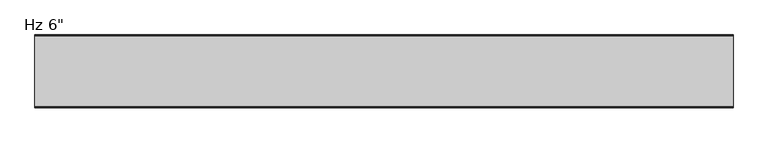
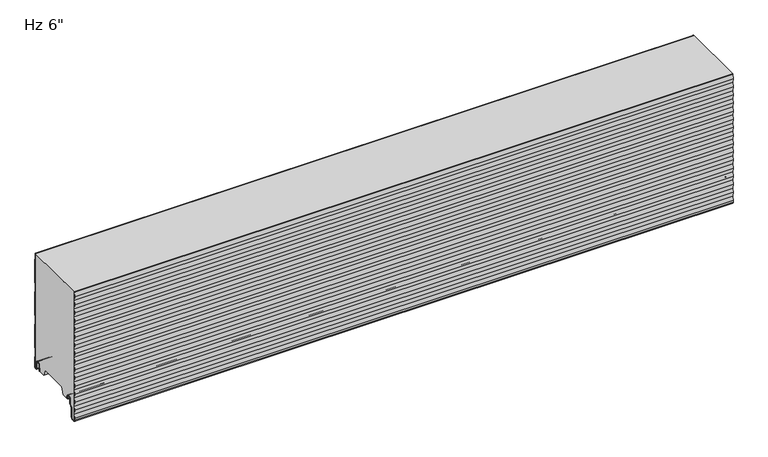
"""IFC4 building model written with IfcOpenShell, lengths in millimetres: plate geometry."""

from ifc_helpers import new_model, si_unit, point, frame, frame_2d, origin, place, context, project, spatial, polyline, circle_curve, trimmed, segment, composite_curve, outline, extrude, source, transform, mapped, element, save
from ifc_brep_helpers import plane_surface, cylinder_surface, revolved_surface, advanced_brep


def plate_f641b36d(model_context):
    return source(origin(), model_context, "Body", "SolidModel", [
        extrude(outline(composite_curve([segment(trimmed(circle_curve(frame_2d((-2.3985037, -0.4487243)), 2.3999705), [point((-3.12e-05, -0.3639402))], [point((-2.3985037, -2.8486949))], False, "CARTESIAN"), True, "CONTINUOUS"), segment(polyline([(-2.3985037, -2.8486949), (-3.9516205, -2.8486949)]), True, "CONTINUOUS"), segment(trimmed(circle_curve(frame_2d((-3.9516205, 0.3613604)), 3.2100553), [point((-3.9516205, -2.8486949))], [point((-7.1616758, 0.3613604))], False, "CARTESIAN"), True, "CONTINUOUS"), segment(polyline([(-7.1616758, 0.3613604), (-7.1616758, 13.8905885)]), True, "CONTINUOUS"), segment(trimmed(circle_curve(frame_2d((-9.8816619, 13.8905885)), 2.7199861), [point((-7.1616758, 13.8905885))], [point((-9.8816619, 16.6105746))], True, "CARTESIAN"), True, "CONTINUOUS"), segment(polyline([(-9.8816619, 16.6105746), (-13.5282598, 16.6105746)]), True, "CONTINUOUS"), segment(trimmed(circle_curve(frame_2d((-13.5282598, 13.8905782)), 2.7199964), [point((-13.5282598, 16.6105746))], [point((-16.2482561, 13.8905782))], True, "CARTESIAN"), True, "CONTINUOUS"), segment(polyline([(-16.2482561, 13.8905782), (-16.2482561, 1.189897)]), True, "CONTINUOUS"), segment(trimmed(circle_curve(frame_2d((-17.7722572, 1.189897)), 1.524001), [point((-16.2482561, 1.189897))], [point((-19.2731052, 1.454537))], False, "CARTESIAN"), True, "CONTINUOUS"), segment(polyline([(-19.2731052, 1.454537), (-18.1704393, 7.7080661), (-17.2482561, 7.5454603), (-17.2482561, 13.8905782)]), True, "CONTINUOUS"), segment(trimmed(circle_curve(frame_2d((-13.5282598, 13.8905782)), 3.7199964), [point((-17.2482561, 13.8905782))], [point((-13.5282598, 17.6105746))], False, "CARTESIAN"), True, "CONTINUOUS"), segment(polyline([(-13.5282598, 17.6105746), (-9.8816619, 17.6105746)]), True, "CONTINUOUS"), segment(trimmed(circle_curve(frame_2d((-9.8816619, 13.8905885)), 3.7199861), [point((-9.8816619, 17.6105746))], [point((-6.1616758, 13.8905885))], False, "CARTESIAN"), True, "CONTINUOUS"), segment(polyline([(-6.1616758, 13.8905885), (-6.1616758, 0.3613604)]), True, "CONTINUOUS"), segment(trimmed(circle_curve(frame_2d((-3.9516205, 0.3613604)), 2.2100553), [point((-6.1616758, 0.3613604))], [point((-3.9516205, -1.8486949))], True, "CARTESIAN"), True, "CONTINUOUS"), segment(polyline([(-3.9516205, -1.8486949), (-2.3985037, -1.8486949)]), True, "CONTINUOUS"), segment(trimmed(circle_curve(frame_2d((-2.3985037, -0.4487243)), 1.3999705), [point((-2.3985037, -1.8486949))], [point((-1.0000312, -0.3839769))], True, "CARTESIAN"), True, "CONTINUOUS"), segment(polyline([(-1.0000312, -0.3839769), (-1.0000312, 22.2866086), (-2.2002516, 23.486829), (-2.2002516, 43.1222888), (-1.0000209, 44.3225195), (-1.0000209, 98.4864459), (-2.2002516, 99.6866766), (-2.2002516, 119.3221364), (-1.0000209, 120.5223671), (-1.0000209, 174.6698551), (-2.2002516, 175.8700858), (-2.2002516, 195.5055456), (-1.0000209, 196.7057763), (-1.0000209, 250.8532643), (-2.2002516, 252.0534951), (-2.2002516, 266.4), (-1.2002516, 266.4), (-1.2002516, 252.4677086), (-2.09e-05, 251.2674779), (-2.09e-05, 196.2915628), (-1.2002516, 195.091332), (-1.2002516, 176.2842994), (-2.09e-05, 175.0840687), (-2.09e-05, 120.1081535), (-1.2002516, 118.9079228), (-1.2002516, 100.1008902), (-2.09e-05, 98.9006594), (-2.09e-05, 43.9083059), (-1.2002516, 42.7080752), (-1.2002516, 23.9010426), (-3.12e-05, 22.7008222), (-3.12e-05, -0.3639402)]), True, "CONTINUOUS")], self_intersect=False)), frame((-730.0, 0.0, 0.0), z_axis=(1.0, 0.0, 0.0), x_axis=(0.0, 1.0, 0.0)), (0.0, 0.0, 1.0), 1460.0),
        extrude(outline(composite_curve([segment(trimmed(circle_curve(frame_2d((-124.0783207, 0.8654988)), 1.2), [point((-122.8783217, 0.8670134))], [point((-125.2768053, 0.8052116))], False, "CARTESIAN"), True, "CONTINUOUS"), segment(polyline([(-125.2768053, 0.8052116), (-125.2768053, 7.3245305)]), True, "CONTINUOUS"), segment(trimmed(circle_curve(frame_2d((-127.6268053, 7.3245305)), 2.3499999), [point((-125.2768053, 7.3245305))], [point((-127.6268053, 9.6745305))], True, "CARTESIAN"), True, "CONTINUOUS"), segment(polyline([(-127.6268053, 9.6745305), (-132.0268051, 9.6745305)]), True, "CONTINUOUS"), segment(trimmed(circle_curve(frame_2d((-132.0268051, 7.3245305)), 2.3499999), [point((-132.0268051, 9.6745305))], [point((-134.376805, 7.3245305))], True, "CARTESIAN"), True, "CONTINUOUS"), segment(polyline([(-134.376805, 7.3245305), (-134.376805, -4.4863817)]), True, "CONTINUOUS"), segment(trimmed(circle_curve(frame_2d((-137.076805, -4.4863817)), 2.7), [point((-134.376805, -4.4863817))], [point((-135.1676167, -6.39557))], False, "CARTESIAN"), True, "CONTINUOUS"), segment(polyline([(-135.1676167, -6.39557), (-139.9081756, -11.1361289)]), True, "CONTINUOUS"), segment(trimmed(circle_curve(frame_2d((-138.7768048, -12.2674998)), 1.6), [point((-139.9081756, -11.1361289))], [point((-140.3768048, -12.2674998))], True, "CARTESIAN"), True, "CONTINUOUS"), segment(polyline([(-140.3768048, -12.2674998), (-140.3768048, -33.274257)]), True, "CONTINUOUS"), segment(trimmed(circle_curve(frame_2d((-144.0768048, -33.274257)), 3.7), [point((-140.3768048, -33.274257))], [point((-143.7540376, -36.960152))], False, "CARTESIAN"), True, "CONTINUOUS"), segment(polyline([(-143.7540376, -36.960152), (-148.5010262, -37.3758371)]), True, "CONTINUOUS"), segment(trimmed(circle_curve(frame_2d((-148.8116373, -33.8287598)), 3.5606512), [point((-148.5010262, -37.3758371))], [point((-152.3722885, -33.8287598))], False, "CARTESIAN"), True, "CONTINUOUS"), segment(polyline([(-152.3722885, -33.8287598), (-152.3722885, -29.1236881), (-151.3412058, -19.8481845), (-152.4000209, -10.3232036), (-151.3412058, -0.7982226), (-152.4000209, 8.7267583), (-151.3412058, 18.2517393), (-152.4000209, 27.7767202), (-151.3412058, 37.3017012), (-152.4000209, 46.8266821), (-151.3412058, 56.3516631), (-152.4000209, 65.876644), (-151.3412058, 75.401625), (-152.4000209, 84.9266059), (-151.3412058, 94.4515869), (-152.4000209, 103.9765678), (-151.3412058, 113.5015488), (-152.4000209, 123.0265297), (-151.3412058, 132.5515107), (-152.4000209, 142.0764916), (-151.3412058, 151.6014726), (-152.4000209, 161.1264535), (-151.3412058, 170.6514345), (-152.4000209, 180.1764154), (-151.3412058, 189.7013964), (-152.4000209, 199.2263773), (-151.3412058, 208.7513583), (-152.4000209, 218.2763392), (-151.3412058, 227.8013202), (-152.4000209, 237.3263011), (-151.3412058, 246.8512821), (-152.4000209, 256.376263), (-151.3412058, 265.901244), (-151.3966485, 266.4), (-150.3904889, 266.4), (-150.3350463, 265.901244), (-151.3938614, 256.376263), (-150.3350463, 246.8512821), (-151.3938614, 237.3263011), (-150.3350463, 227.8013202), (-151.3938614, 218.2763392), (-150.3350463, 208.7513583), (-151.3938614, 199.2263773), (-150.3350463, 189.7013964), (-151.3938614, 180.1764154), (-150.3350463, 170.6514345), (-151.3938614, 161.1264535), (-150.3350463, 151.6014726), (-151.3938614, 142.0764916), (-150.3350463, 132.5515107), (-151.3938614, 123.0265297), (-150.3350463, 113.5015488), (-151.3938614, 103.9765678), (-150.3350463, 94.4515869), (-151.3938614, 84.9266059), (-150.3350463, 75.401625), (-151.3938614, 65.876644), (-150.3350463, 56.3516631), (-151.3938614, 46.8266821), (-150.3350463, 37.3017012), (-151.3938614, 27.7767202), (-150.3350463, 18.2517393), (-151.3938614, 8.7267583), (-150.3350463, -0.7982226), (-151.3938614, -10.3232036), (-150.3350463, -19.8481845), (-151.3722885, -29.1790984), (-151.3722885, -33.8287598)]), True, "CONTINUOUS"), segment(trimmed(circle_curve(frame_2d((-148.8116373, -33.8287598)), 2.5606512), [point((-151.3722885, -33.8287598))], [point((-148.5882606, -36.3796493))], True, "CARTESIAN"), True, "CONTINUOUS"), segment(polyline([(-148.5882606, -36.3796493), (-143.841272, -35.9639641)]), True, "CONTINUOUS"), segment(trimmed(circle_curve(frame_2d((-144.0768048, -33.274257)), 2.7), [point((-143.841272, -35.9639641))], [point((-141.3768048, -33.274257))], True, "CARTESIAN"), True, "CONTINUOUS"), segment(polyline([(-141.3768048, -33.274257), (-141.3768048, -12.2674998)]), True, "CONTINUOUS"), segment(trimmed(circle_curve(frame_2d((-138.7768048, -12.2674998)), 2.6), [point((-141.3768048, -12.2674998))], [point((-140.6152824, -10.4290221))], False, "CARTESIAN"), True, "CONTINUOUS"), segment(polyline([(-140.6152824, -10.4290221), (-135.8747235, -5.6884632)]), True, "CONTINUOUS"), segment(trimmed(circle_curve(frame_2d((-137.076805, -4.4863817)), 1.7), [point((-135.8747235, -5.6884632))], [point((-135.376805, -4.4863817))], True, "CARTESIAN"), True, "CONTINUOUS"), segment(polyline([(-135.376805, -4.4863817), (-135.376805, 7.3245305)]), True, "CONTINUOUS"), segment(trimmed(circle_curve(frame_2d((-132.0268051, 7.3245305)), 3.3499999), [point((-135.376805, 7.3245305))], [point((-132.0268051, 10.6745305))], False, "CARTESIAN"), True, "CONTINUOUS"), segment(polyline([(-132.0268051, 10.6745305), (-127.6268053, 10.6745305)]), True, "CONTINUOUS"), segment(trimmed(circle_curve(frame_2d((-127.6268053, 7.3245305)), 3.3499999), [point((-127.6268053, 10.6745305))], [point((-124.2768053, 7.3245305))], False, "CARTESIAN"), True, "CONTINUOUS"), segment(polyline([(-124.2768053, 7.3245305), (-124.2768053, 4.6254142), (-122.8783217, 4.6254142), (-122.8783217, 0.8670134)]), True, "CONTINUOUS")], self_intersect=False)), frame((-730.0, 0.0, 0.0), z_axis=(1.0, 0.0, 0.0), x_axis=(0.0, 1.0, 0.0)), (0.0, 0.0, 1.0), 1460.0),
        advanced_brep(
        [(-730.0, -124.2829649, 7.3245305), (-730.0, -127.6329648, 10.6745305), (-730.0, -132.0329646, 10.6745305), (-730.0, -135.3829645, 7.3245305), (-730.0, -135.3829645, -4.4863817), (-730.0, -135.880883, -5.6884632), (-730.0, -140.6214419, -10.4290221), (-730.0, -141.3829643, -12.2674998), (-730.0, -141.3829643, -33.274257), (-730.0, -143.8474315, -35.9639641), (-730.0, -148.5944201, -36.3796493), (-730.0, -151.378448, -33.8287598), (-730.0, -151.378448, -29.1787401), (-730.0, -150.3412058, -19.8478263), (-730.0, -151.4000209, -10.3228453), (-730.0, -150.3412058, -0.7978644), (-730.0, -151.4000209, 8.7271166), (-730.0, -150.3412058, 18.2520975), (-730.0, -151.4000209, 27.7770785), (-730.0, -150.3412058, 37.3020594), (-730.0, -151.4000209, 46.8270404), (-730.0, -150.3412058, 56.3520213), (-730.0, -151.4000209, 65.8770023), (-730.0, -150.3412058, 75.4019832), (-730.0, -151.4000209, 84.9269642), (-730.0, -150.3412058, 94.4519451), (-730.0, -151.4000209, 103.9769261), (-730.0, -150.3412058, 113.501907), (-730.0, -151.4000209, 123.026888), (-730.0, -150.3412058, 132.5518689), (-730.0, -151.4000209, 142.0768499), (-730.0, -150.3412058, 151.6018308), (-730.0, -151.4000209, 161.1268118), (-730.0, -150.3412058, 170.6517927), (-730.0, -151.4000209, 180.1767737), (-730.0, -150.3412058, 189.7017546), (-730.0, -151.4000209, 199.2267356), (-730.0, -150.3412058, 208.7517165), (-730.0, -151.4000209, 218.2766975), (-730.0, -150.3412058, 227.8016784), (-730.0, -151.4000209, 237.3266594), (-730.0, -150.3412058, 246.8516403), (-730.0, -151.4000209, 256.3766213), (-730.0, -150.3412058, 265.9016022), (-730.0, -150.3966086, 266.4), (-730.0, -2.2002516, 266.4), (-730.0, -2.2002516, 252.0534951), (-730.0, -1.0000209, 250.8532643), (-730.0, -1.0000209, 196.7057763), (-730.0, -2.2002516, 195.5055456), (-730.0, -2.2002516, 175.8700858), (-730.0, -1.0000209, 174.6698551), (-730.0, -1.0000209, 120.5223671), (-730.0, -2.2002516, 119.3221364), (-730.0, -2.2002516, 99.6866766), (-730.0, -1.0000209, 98.4864459), (-730.0, -1.0000209, 44.3225195), (-730.0, -2.2002516, 43.1222888), (-730.0, -2.2002516, 23.486829), (-730.0, -1.0000312, 22.2866086), (-730.0, -1.0000312, -0.3839769), (-730.0, -2.3985037, -1.8486949), (-730.0, -3.9516205, -1.8486949), (-730.0, -6.1616758, 0.3613604), (-730.0, -6.1616758, 13.8905885), (-730.0, -9.8816619, 17.6105746), (-730.0, -13.5282598, 17.6105746), (-730.0, -17.2482561, 13.8905782), (-730.0, -17.2482561, 7.5454603), (-730.0, -18.1704393, 7.7080661), (-730.0, -19.2731052, 1.454537), (-730.0, -18.724478, 0.0), (-730.0, -33.5050787, 0.0), (-730.0, -39.1301227, 14.9979533), (-730.0, -102.5686274, 14.9979533), (-730.0, -108.1712822, 0.0), (-730.0, -123.2532693, 0.0), (-730.0, -122.8844813, 0.8670134), (-730.0, -122.8844813, 4.6254142), (-730.0, -124.2829649, 4.6254142), (730.0, -124.2829649, 7.3245305), (730.0, -124.2829649, 4.6254142), (730.0, -122.8844813, 4.6254142), (730.0, -122.8844813, 0.8670134), (730.0, -123.2532693, 0.0), (730.0, -108.1712822, 0.0), (730.0, -102.5470546, 14.9979533), (730.0, -39.1301227, 14.9979533), (730.0, -33.5050787, 0.0), (730.0, -18.724478, 0.0), (730.0, -19.2731052, 1.454537), (730.0, -18.1704393, 7.7080661), (730.0, -17.2482561, 7.5454603), (730.0, -17.2482561, 13.8905782), (730.0, -13.5282598, 17.6105746), (730.0, -9.8816619, 17.6105746), (730.0, -6.1616758, 13.8905885), (730.0, -6.1616758, 0.3613604), (730.0, -3.9516205, -1.8486949), (730.0, -2.3985037, -1.8486949), (730.0, -1.0000312, -0.3839769), (730.0, -1.0000312, 22.2866086), (730.0, -2.2002516, 23.486829), (730.0, -2.2002516, 43.1222888), (730.0, -1.0000209, 44.3225195), (730.0, -1.0000209, 98.4864459), (730.0, -2.2002516, 99.6866766), (730.0, -2.2002516, 119.3221364), (730.0, -1.0000209, 120.5223671), (730.0, -1.0000209, 174.6698551), (730.0, -2.2002516, 175.8700858), (730.0, -2.2002516, 195.5055456), (730.0, -1.0000209, 196.7057763), (730.0, -1.0000209, 250.8532643), (730.0, -2.2002516, 252.0534951), (730.0, -2.2002516, 266.4), (730.0, -150.3966086, 266.4), (730.0, -150.3412058, 265.9016022), (730.0, -151.4000209, 256.3766213), (730.0, -150.3412058, 246.8516403), (730.0, -151.4000209, 237.3266594), (730.0, -150.3412058, 227.8016784), (730.0, -151.4000209, 218.2766975), (730.0, -150.3412058, 208.7517165), (730.0, -151.4000209, 199.2267356), (730.0, -150.3412058, 189.7017546), (730.0, -151.4000209, 180.1767737), (730.0, -150.3412058, 170.6517927), (730.0, -151.4000209, 161.1268118), (730.0, -150.3412058, 151.6018308), (730.0, -151.4000209, 142.0768499), (730.0, -150.3412058, 132.5518689), (730.0, -151.4000209, 123.026888), (730.0, -150.3412058, 113.501907), (730.0, -151.4000209, 103.9769261), (730.0, -150.3412058, 94.4519451), (730.0, -151.4000209, 84.9269642), (730.0, -150.3412058, 75.4019832), (730.0, -151.4000209, 65.8770023), (730.0, -150.3412058, 56.3520213), (730.0, -151.4000209, 46.8270404), (730.0, -150.3412058, 37.3020594), (730.0, -151.4000209, 27.7770785), (730.0, -150.3412058, 18.2520975), (730.0, -151.4000209, 8.7271166), (730.0, -150.3412058, -0.7978644), (730.0, -151.4000209, -10.3228453), (730.0, -150.3412058, -19.8478263), (730.0, -151.378448, -29.1787401), (730.0, -151.378448, -33.8287598), (730.0, -148.5944201, -36.3796493), (730.0, -143.8474315, -35.9639641), (730.0, -141.3829643, -33.274257), (730.0, -141.3829643, -12.2674998), (730.0, -140.6214419, -10.4290221), (730.0, -135.880883, -5.6884632), (730.0, -135.3829645, -4.4863817), (730.0, -135.3829645, 7.3245305), (730.0, -132.0329646, 10.6745305), (730.0, -127.6329648, 10.6745305)],
        [
            (0, 1, circle_curve(frame((-730.0, -127.6329648, 7.3245305), z_axis=(1.0, 0.0, 0.0), x_axis=(0.0, 0.0, -1.0)), 3.3499999)),
            (1, 2),
            (2, 3, circle_curve(frame((-730.0, -132.0329646, 7.3245305), z_axis=(1.0, 0.0, 0.0), x_axis=(0.0, 0.0, -1.0)), 3.3499999)),
            (3, 4),
            (4, 5, circle_curve(frame((-730.0, -137.0829645, -4.4863817), z_axis=(-1.0, 0.0, 0.0), x_axis=(0.0, 0.0, -1.0)), 1.7)),
            (5, 6),
            (6, 7, circle_curve(frame((-730.0, -138.7829643, -12.2674998), z_axis=(1.0, 0.0, 0.0), x_axis=(0.0, 0.0, -1.0)), 2.6)),
            (7, 8),
            (8, 9, circle_curve(frame((-730.0, -144.0829643, -33.274257), z_axis=(-1.0, 0.0, 0.0), x_axis=(0.0, 0.0, -1.0)), 2.7)),
            (9, 10),
            (10, 11, circle_curve(frame((-730.0, -148.8177968, -33.8287598), z_axis=(-1.0, 0.0, 0.0), x_axis=(0.0, 0.0, -1.0)), 2.5606512)),
            (11, 12),
            (12, 13),
            (13, 14),
            (14, 15),
            (15, 16),
            (16, 17),
            (17, 18),
            (18, 19),
            (19, 20),
            (20, 21),
            (21, 22),
            (22, 23),
            (23, 24),
            (24, 25),
            (25, 26),
            (26, 27),
            (27, 28),
            (28, 29),
            (29, 30),
            (30, 31),
            (31, 32),
            (32, 33),
            (33, 34),
            (34, 35),
            (35, 36),
            (36, 37),
            (37, 38),
            (38, 39),
            (39, 40),
            (40, 41),
            (41, 42),
            (42, 43),
            (43, 44),
            (44, 45),
            (45, 46),
            (46, 47),
            (47, 48),
            (48, 49),
            (49, 50),
            (50, 51),
            (51, 52),
            (52, 53),
            (53, 54),
            (54, 55),
            (55, 56),
            (56, 57),
            (57, 58),
            (58, 59),
            (59, 60),
            (60, 61, circle_curve(frame((-730.0, -2.3985037, -0.4487243), z_axis=(-1.0, 0.0, 0.0), x_axis=(0.0, 0.0, -1.0)), 1.3999705)),
            (61, 62),
            (62, 63, circle_curve(frame((-730.0, -3.9516205, 0.3613604), z_axis=(-1.0, 0.0, 0.0), x_axis=(0.0, 0.0, -1.0)), 2.2100553)),
            (63, 64),
            (64, 65, circle_curve(frame((-730.0, -9.8816619, 13.8905885), z_axis=(1.0, 0.0, 0.0), x_axis=(0.0, 0.0, -1.0)), 3.7199861)),
            (65, 66),
            (66, 67, circle_curve(frame((-730.0, -13.5282598, 13.8905782), z_axis=(1.0, 0.0, 0.0), x_axis=(0.0, 0.0, -1.0)), 3.7199964)),
            (67, 68),
            (68, 69),
            (69, 70),
            (70, 71, circle_curve(frame((-730.0, -17.7722572, 1.189897), z_axis=(1.0, 0.0, 0.0), x_axis=(0.0, 0.0, -1.0)), 1.524001)),
            (71, 72),
            (72, 73),
            (73, 74),
            (74, 75),
            (75, 76),
            (76, 77, circle_curve(frame((-730.0, -124.0844803, 0.8654988), z_axis=(1.0, 0.0, 0.0), x_axis=(0.0, 0.0, -1.0)), 1.2)),
            (77, 78),
            (78, 79),
            (79, 0),
            (80, 81),
            (81, 82),
            (82, 83),
            (83, 84, circle_curve(frame((730.0, -124.0844803, 0.8654988), z_axis=(-1.0, 0.0, 0.0), x_axis=(0.0, 0.0, -1.0)), 1.2)),
            (84, 85),
            (85, 86),
            (86, 87),
            (87, 88),
            (88, 89),
            (89, 90, circle_curve(frame((730.0, -17.7722572, 1.189897), z_axis=(-1.0, 0.0, 0.0), x_axis=(0.0, 0.0, -1.0)), 1.524001)),
            (90, 91),
            (91, 92),
            (92, 93),
            (93, 94, circle_curve(frame((730.0, -13.5282598, 13.8905782), z_axis=(-1.0, 0.0, 0.0), x_axis=(0.0, 0.0, -1.0)), 3.7199964)),
            (94, 95),
            (95, 96, circle_curve(frame((730.0, -9.8816619, 13.8905885), z_axis=(-1.0, 0.0, 0.0), x_axis=(0.0, 0.0, -1.0)), 3.7199861)),
            (96, 97),
            (97, 98, circle_curve(frame((730.0, -3.9516205, 0.3613604), z_axis=(1.0, 0.0, 0.0), x_axis=(0.0, 0.0, -1.0)), 2.2100553)),
            (98, 99),
            (99, 100, circle_curve(frame((730.0, -2.3985037, -0.4487243), z_axis=(1.0, 0.0, 0.0), x_axis=(0.0, 0.0, -1.0)), 1.3999705)),
            (100, 101),
            (101, 102),
            (102, 103),
            (103, 104),
            (104, 105),
            (105, 106),
            (106, 107),
            (107, 108),
            (108, 109),
            (109, 110),
            (110, 111),
            (111, 112),
            (112, 113),
            (113, 114),
            (114, 115),
            (115, 116),
            (116, 117),
            (117, 118),
            (118, 119),
            (119, 120),
            (120, 121),
            (121, 122),
            (122, 123),
            (123, 124),
            (124, 125),
            (125, 126),
            (126, 127),
            (127, 128),
            (128, 129),
            (129, 130),
            (130, 131),
            (131, 132),
            (132, 133),
            (133, 134),
            (134, 135),
            (135, 136),
            (136, 137),
            (137, 138),
            (138, 139),
            (139, 140),
            (140, 141),
            (141, 142),
            (142, 143),
            (143, 144),
            (144, 145),
            (145, 146),
            (146, 147),
            (147, 148),
            (148, 149),
            (149, 150, circle_curve(frame((730.0, -148.8177968, -33.8287598), z_axis=(1.0, 0.0, 0.0), x_axis=(0.0, 0.0, -1.0)), 2.5606512)),
            (150, 151),
            (151, 152, circle_curve(frame((730.0, -144.0829643, -33.274257), z_axis=(1.0, 0.0, 0.0), x_axis=(0.0, 0.0, -1.0)), 2.7)),
            (152, 153),
            (153, 154, circle_curve(frame((730.0, -138.7829643, -12.2674998), z_axis=(-1.0, 0.0, 0.0), x_axis=(0.0, 0.0, -1.0)), 2.6)),
            (154, 155),
            (155, 156, circle_curve(frame((730.0, -137.0829645, -4.4863817), z_axis=(1.0, 0.0, 0.0), x_axis=(0.0, 0.0, -1.0)), 1.7)),
            (156, 157),
            (157, 158, circle_curve(frame((730.0, -132.0329646, 7.3245305), z_axis=(-1.0, 0.0, 0.0), x_axis=(0.0, 0.0, -1.0)), 3.3499999)),
            (158, 159),
            (159, 80, circle_curve(frame((730.0, -127.6329648, 7.3245305), z_axis=(-1.0, 0.0, 0.0), x_axis=(0.0, 0.0, -1.0)), 3.3499999)),
            (64, 96),
            (95, 65),
            (63, 97),
            (62, 98),
            (61, 99),
            (60, 100),
            (59, 101),
            (58, 102),
            (57, 103),
            (56, 104),
            (55, 105),
            (54, 106),
            (53, 107),
            (52, 108),
            (51, 109),
            (50, 110),
            (49, 111),
            (48, 112),
            (47, 113),
            (46, 114),
            (45, 115),
            (72, 88),
            (87, 73),
            (71, 89),
            (70, 90),
            (69, 91),
            (68, 92),
            (67, 93),
            (66, 94),
            (86, 74),
            (10, 150),
            (149, 11),
            (9, 151),
            (8, 152),
            (6, 154),
            (153, 7),
            (5, 155),
            (4, 156),
            (3, 157),
            (2, 158),
            (1, 159),
            (75, 85),
            (84, 76),
            (116, 44),
            (43, 117),
            (42, 118),
            (41, 119),
            (40, 120),
            (39, 121),
            (38, 122),
            (37, 123),
            (36, 124),
            (35, 125),
            (34, 126),
            (33, 127),
            (32, 128),
            (31, 129),
            (30, 130),
            (29, 131),
            (28, 132),
            (27, 133),
            (26, 134),
            (25, 135),
            (24, 136),
            (23, 137),
            (22, 138),
            (21, 139),
            (20, 140),
            (19, 141),
            (18, 142),
            (17, 143),
            (16, 144),
            (15, 145),
            (14, 146),
            (13, 147),
            (12, 148),
            (83, 77),
            (82, 78),
            (81, 79),
            (0, 80),
        ],
        [
            plane_surface(frame((-730.0, -151.4000209, 532.8637656), z_axis=(-1.0, 0.0, 0.0), x_axis=(0.0, -1.0, 0.0))),
            plane_surface(frame((730.0, -151.4000209, 532.8637656), z_axis=(1.0, 0.0, 0.0), x_axis=(0.0, -1.0, 0.0))),
            revolved_surface(polyline([(730.0, -9.8816619, 10.1706024), (-730.0, -9.8816619, 10.1706024)]), (-730.0, -9.8816619, 13.8905885), (1.0, 0.0, 0.0)),
            plane_surface(frame((-730.0, -6.1616758, 13.8905885), z_axis=(0.0, -1.0, 0.0), x_axis=(1.0, 0.0, 0.0))),
            cylinder_surface(frame((-730.0, -3.9516205, 0.3613604), z_axis=(-1.0, 0.0, 0.0), x_axis=(0.0, 0.0, -1.0)), 2.2100553),
            plane_surface(frame((-730.0, -3.9516205, -1.8486949), z_axis=(0.0, 0.0, -1.0), x_axis=(1.0, 0.0, 0.0))),
            cylinder_surface(frame((-730.0, -2.3985037, -0.4487243), z_axis=(-1.0, 0.0, 0.0), x_axis=(0.0, 0.0, -1.0)), 1.3999705),
            plane_surface(frame((-730.0, -1.0000312, -0.3839769), z_axis=(0.0, 1.0, 0.0), x_axis=(1.0, 0.0, 0.0))),
            plane_surface(frame((-730.0, -1.0000312, 22.2866086), z_axis=(0.0, 0.7071067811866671, 0.7071067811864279), x_axis=(1.0, 0.0, 0.0))),
            plane_surface(frame((-730.0, -2.2002516, 33.3045589), z_axis=(0.0, 1.0, 0.0), x_axis=(1.0, 0.0, 0.0))),
            plane_surface(frame((-730.0, -2.2002516, 43.1222888), z_axis=(0.0, 0.7071067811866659, -0.7071067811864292), x_axis=(1.0, 0.0, 0.0))),
            plane_surface(frame((-730.0, -1.0000209, 44.3225195), z_axis=(0.0, 1.0, 0.0), x_axis=(1.0, 0.0, 0.0))),
            plane_surface(frame((-730.0, -1.0000209, 98.4864459), z_axis=(0.0, 0.7071067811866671, 0.7071067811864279), x_axis=(1.0, 0.0, 0.0))),
            plane_surface(frame((-730.0, -2.2002516, 109.5044065), z_axis=(0.0, 1.0, 0.0), x_axis=(1.0, 0.0, 0.0))),
            plane_surface(frame((-730.0, -2.2002516, 119.3221364), z_axis=(0.0, 0.7071067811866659, -0.7071067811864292), x_axis=(1.0, 0.0, 0.0))),
            plane_surface(frame((-730.0, -1.0000209, 120.5223671), z_axis=(0.0, 1.0, 0.0), x_axis=(1.0, 0.0, 0.0))),
            plane_surface(frame((-730.0, -1.0000209, 174.6698551), z_axis=(0.0, 0.7071067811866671, 0.7071067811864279), x_axis=(1.0, 0.0, 0.0))),
            plane_surface(frame((-730.0, -2.2002516, 185.6878157), z_axis=(0.0, 1.0, 0.0), x_axis=(1.0, 0.0, 0.0))),
            plane_surface(frame((-730.0, -2.2002516, 195.5055456), z_axis=(0.0, 0.7071067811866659, -0.7071067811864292), x_axis=(1.0, 0.0, 0.0))),
            plane_surface(frame((-730.0, -1.0000209, 196.7057763), z_axis=(0.0, 1.0, 0.0), x_axis=(1.0, 0.0, 0.0))),
            plane_surface(frame((-730.0, -1.0000209, 250.8532643), z_axis=(0.0, 0.7071067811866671, 0.7071067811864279), x_axis=(1.0, 0.0, 0.0))),
            plane_surface(frame((-730.0, -2.2002516, 261.8712249), z_axis=(0.0, 1.0, 0.0), x_axis=(1.0, 0.0, 0.0))),
            plane_surface(frame((-730.0, -39.1301227, 14.9979533), z_axis=(0.0, -0.9363125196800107, -0.35116785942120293), x_axis=(1.0, 0.0, 0.0))),
            plane_surface(frame((-730.0, -33.5050787, 0.0), z_axis=(0.0, 0.0, -1.0), x_axis=(1.0, 0.0, 0.0))),
            revolved_surface(polyline([(730.0, -17.7722572, -0.33410399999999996), (-730.0, -17.7722572, -0.33410399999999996)]), (-730.0, -17.7722572, 1.189897), (1.0, 0.0, 0.0)),
            plane_surface(frame((-730.0, -19.2731052, 1.454537), z_axis=(0.0, 0.9848077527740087, -0.1736481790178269), x_axis=(1.0, 0.0, 0.0))),
            plane_surface(frame((-730.0, -18.1704393, 7.7080661), z_axis=(0.0, -0.17364817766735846, -0.9848077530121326), x_axis=(1.0, 0.0, 0.0))),
            plane_surface(frame((-730.0, -17.2482561, 7.5454603), z_axis=(0.0, 1.0, 0.0), x_axis=(1.0, 0.0, 0.0))),
            revolved_surface(polyline([(730.0, -13.5282598, 10.1705818), (-730.0, -13.5282598, 10.1705818)]), (-730.0, -13.5282598, 13.8905782), (1.0, 0.0, 0.0)),
            plane_surface(frame((-730.0, -13.5282598, 17.6105746), z_axis=(0.0, 0.0, -1.0), x_axis=(1.0, 0.0, 0.0))),
            plane_surface(frame((730.0, -39.1301227, 14.9979533), z_axis=(0.0, 0.0, -1.0), x_axis=(-1.0, 0.0, 0.0))),
            cylinder_surface(frame((-730.0, -148.8177968, -33.8287598), z_axis=(-1.0, 0.0, 0.0), x_axis=(0.0, 0.0, -1.0)), 2.5606512),
            plane_surface(frame((-730.0, -148.5944201, -36.3796493), z_axis=(0.0, 0.08723436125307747, -0.9961878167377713), x_axis=(1.0, 0.0, 0.0))),
            cylinder_surface(frame((-730.0, -144.0829643, -33.274257), z_axis=(-1.0, 0.0, 0.0), x_axis=(0.0, 0.0, -1.0)), 2.7),
            revolved_surface(polyline([(730.0, -138.7829643, -14.8674998), (-730.0, -138.7829643, -14.8674998)]), (-730.0, -138.7829643, -12.2674998), (1.0, 0.0, 0.0)),
            plane_surface(frame((-730.0, -140.6214419, -10.4290221), z_axis=(0.0, 0.7071067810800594, -0.7071067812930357), x_axis=(1.0, 0.0, 0.0))),
            cylinder_surface(frame((-730.0, -137.0829645, -4.4863817), z_axis=(-1.0, 0.0, 0.0), x_axis=(0.0, 0.0, -1.0)), 1.7),
            plane_surface(frame((-730.0, -135.3829645, -4.4863817), z_axis=(0.0, 1.0, 0.0), x_axis=(1.0, 0.0, 0.0))),
            revolved_surface(polyline([(730.0, -132.0329646, 3.9745306), (-730.0, -132.0329646, 3.9745306)]), (-730.0, -132.0329646, 7.3245305), (1.0, 0.0, 0.0)),
            plane_surface(frame((-730.0, -132.0329646, 10.6745305), z_axis=(0.0, 0.0, -1.0), x_axis=(1.0, 0.0, 0.0))),
            plane_surface(frame((-730.0, -123.2532693, 0.0), z_axis=(0.0, 0.0, -1.0), x_axis=(1.0, 0.0, 0.0))),
            plane_surface(frame((-730.0, -108.1712822, 0.0), z_axis=(0.0, 0.9363292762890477, -0.3511231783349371), x_axis=(1.0, 0.0, 0.0))),
            plane_surface(frame((-730.0, -151.4000209, 275.4265832), z_axis=(0.0, -0.9938781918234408, -0.11048140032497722), x_axis=(1.0, 0.0, 0.0))),
            plane_surface(frame((-730.0, -150.3412058, 265.9016022), z_axis=(0.0, -0.993878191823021, 0.11048140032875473), x_axis=(1.0, 0.0, 0.0))),
            plane_surface(frame((-730.0, -151.4000209, 256.3766213), z_axis=(0.0, -0.993878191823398, -0.11048140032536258), x_axis=(1.0, 0.0, 0.0))),
            plane_surface(frame((-730.0, -150.3412058, 246.8516403), z_axis=(0.0, -0.993878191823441, 0.1104814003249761), x_axis=(1.0, 0.0, 0.0))),
            plane_surface(frame((-730.0, -151.4000209, 237.3266594), z_axis=(0.0, -0.9938781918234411, -0.11048140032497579), x_axis=(1.0, 0.0, 0.0))),
            plane_surface(frame((-730.0, -150.3412058, 227.8016784), z_axis=(0.0, -0.993878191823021, 0.11048140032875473), x_axis=(1.0, 0.0, 0.0))),
            plane_surface(frame((-730.0, -151.4000209, 218.2766975), z_axis=(0.0, -0.993878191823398, -0.11048140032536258), x_axis=(1.0, 0.0, 0.0))),
            plane_surface(frame((-730.0, -150.3412058, 208.7517165), z_axis=(0.0, -0.993878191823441, 0.1104814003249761), x_axis=(1.0, 0.0, 0.0))),
            plane_surface(frame((-730.0, -151.4000209, 199.2267356), z_axis=(0.0, -0.9938781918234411, -0.11048140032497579), x_axis=(1.0, 0.0, 0.0))),
            plane_surface(frame((-730.0, -150.3412058, 189.7017546), z_axis=(0.0, -0.993878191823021, 0.11048140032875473), x_axis=(1.0, 0.0, 0.0))),
            plane_surface(frame((-730.0, -151.4000209, 180.1767737), z_axis=(0.0, -0.993878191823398, -0.11048140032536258), x_axis=(1.0, 0.0, 0.0))),
            plane_surface(frame((-730.0, -150.3412058, 170.6517927), z_axis=(0.0, -0.993878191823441, 0.1104814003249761), x_axis=(1.0, 0.0, 0.0))),
            plane_surface(frame((-730.0, -151.4000209, 161.1268118), z_axis=(0.0, -0.9938781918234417, -0.11048140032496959), x_axis=(1.0, 0.0, 0.0))),
            plane_surface(frame((-730.0, -150.3412058, 151.6018308), z_axis=(0.0, -0.993878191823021, 0.1104814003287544), x_axis=(1.0, 0.0, 0.0))),
            plane_surface(frame((-730.0, -151.4000209, 142.0768499), z_axis=(0.0, -0.9938781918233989, -0.11048140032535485), x_axis=(1.0, 0.0, 0.0))),
            plane_surface(frame((-730.0, -150.3412058, 132.5518689), z_axis=(0.0, -0.993878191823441, 0.1104814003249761), x_axis=(1.0, 0.0, 0.0))),
            plane_surface(frame((-730.0, -151.4000209, 123.026888), z_axis=(0.0, -0.9938781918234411, -0.11048140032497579), x_axis=(1.0, 0.0, 0.0))),
            plane_surface(frame((-730.0, -150.3412058, 113.501907), z_axis=(0.0, -0.993878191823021, 0.11048140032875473), x_axis=(1.0, 0.0, 0.0))),
            plane_surface(frame((-730.0, -151.4000209, 103.9769261), z_axis=(0.0, -0.993878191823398, -0.11048140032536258), x_axis=(1.0, 0.0, 0.0))),
            plane_surface(frame((-730.0, -150.3412058, 94.4519451), z_axis=(0.0, -0.993878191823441, 0.1104814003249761), x_axis=(1.0, 0.0, 0.0))),
            plane_surface(frame((-730.0, -151.4000209, 84.9269642), z_axis=(0.0, -0.9938781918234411, -0.11048140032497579), x_axis=(1.0, 0.0, 0.0))),
            plane_surface(frame((-730.0, -150.3412058, 75.4019832), z_axis=(0.0, -0.993878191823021, 0.11048140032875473), x_axis=(1.0, 0.0, 0.0))),
            plane_surface(frame((-730.0, -151.4000209, 65.8770023), z_axis=(0.0, -0.993878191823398, -0.11048140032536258), x_axis=(1.0, 0.0, 0.0))),
            plane_surface(frame((-730.0, -150.3412058, 56.3520213), z_axis=(0.0, -0.993878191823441, 0.1104814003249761), x_axis=(1.0, 0.0, 0.0))),
            plane_surface(frame((-730.0, -151.4000209, 46.8270404), z_axis=(0.0, -0.9938781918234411, -0.11048140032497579), x_axis=(1.0, 0.0, 0.0))),
            plane_surface(frame((-730.0, -150.3412058, 37.3020594), z_axis=(0.0, -0.993878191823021, 0.11048140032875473), x_axis=(1.0, 0.0, 0.0))),
            plane_surface(frame((-730.0, -151.4000209, 27.7770785), z_axis=(0.0, -0.993878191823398, -0.11048140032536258), x_axis=(1.0, 0.0, 0.0))),
            plane_surface(frame((-730.0, -150.3412058, 18.2520975), z_axis=(0.0, -0.993878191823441, 0.1104814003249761), x_axis=(1.0, 0.0, 0.0))),
            plane_surface(frame((-730.0, -151.4000209, 8.7271166), z_axis=(0.0, -0.9938781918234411, -0.11048140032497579), x_axis=(1.0, 0.0, 0.0))),
            plane_surface(frame((-730.0, -150.3412058, -0.7978644), z_axis=(0.0, -0.993878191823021, 0.11048140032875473), x_axis=(1.0, 0.0, 0.0))),
            plane_surface(frame((-730.0, -151.4000209, -10.3228453), z_axis=(0.0, -0.9938781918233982, -0.11048140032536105), x_axis=(1.0, 0.0, 0.0))),
            plane_surface(frame((-730.0, -150.3412058, -19.8478263), z_axis=(0.0, -0.9938781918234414, 0.11048140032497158), x_axis=(1.0, 0.0, 0.0))),
            plane_surface(frame((-730.0, -151.378448, -29.1787401), z_axis=(0.0, -1.0, 0.0), x_axis=(1.0, 0.0, 0.0))),
            revolved_surface(polyline([(730.0, -124.0844803, -0.33450119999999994), (-730.0, -124.0844803, -0.33450119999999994)]), (-730.0, -124.0844803, 0.8654988), (1.0, 0.0, 0.0)),
            plane_surface(frame((-730.0, -122.8844813, 4.6254142), z_axis=(0.0, -1.0, 0.0), x_axis=(1.0, 0.0, 0.0))),
            plane_surface(frame((-730.0, -124.2829649, 4.6254142), z_axis=(0.0, 0.0, -1.0), x_axis=(1.0, 0.0, 0.0))),
            revolved_surface(polyline([(730.0, -127.6329648, 3.9745306), (-730.0, -127.6329648, 3.9745306)]), (-730.0, -127.6329648, 7.3245305), (1.0, 0.0, 0.0)),
            plane_surface(frame((-730.0, -124.2829649, 7.3245305), z_axis=(0.0, -1.0, 0.0), x_axis=(1.0, 0.0, 0.0))),
            plane_surface(frame((-730.0, -141.3829643, -33.274257), z_axis=(0.0, 1.0, 0.0), x_axis=(1.0, 0.0, 0.0))),
            plane_surface(frame((730.0, 11.9999791, 266.4), z_axis=(0.0, 0.0, 1.0), x_axis=(-1.0, 0.0, 0.0))),
        ],
        [
            (0, [[1, 2, 3, 4, 5, 6, 7, 8, 9, 10, 11, 12, 13, 14, 15, 16, 17, 18, 19, 20, 21, 22, 23, 24, 25, 26, 27, 28, 29, 30, 31, 32, 33, 34, 35, 36, 37, 38, 39, 40, 41, 42, 43, 44, 45, 46, 47, 48, 49, 50, 51, 52, 53, 54, 55, 56, 57, 58, 59, 60, 61, 62, 63, 64, 65, 66, 67, 68, 69, 70, 71, 72, 73, 74, 75, 76, 77, 78, 79, 80]]),
            (1, [[81, 82, 83, 84, 85, 86, 87, 88, 89, 90, 91, 92, 93, 94, 95, 96, 97, 98, 99, 100, 101, 102, 103, 104, 105, 106, 107, 108, 109, 110, 111, 112, 113, 114, 115, 116, 117, 118, 119, 120, 121, 122, 123, 124, 125, 126, 127, 128, 129, 130, 131, 132, 133, 134, 135, 136, 137, 138, 139, 140, 141, 142, 143, 144, 145, 146, 147, 148, 149, 150, 151, 152, 153, 154, 155, 156, 157, 158, 159, 160]]),
            (2, [[161, -96, 162, -65]]),
            (3, [[163, -97, -161, -64]]),
            (4, [[164, -98, -163, -63]]),
            (5, [[165, -99, -164, -62]]),
            (6, [[166, -100, -165, -61]]),
            (7, [[167, -101, -166, -60]]),
            (8, [[168, -102, -167, -59]]),
            (9, [[169, -103, -168, -58]]),
            (10, [[170, -104, -169, -57]]),
            (11, [[171, -105, -170, -56]]),
            (12, [[172, -106, -171, -55]]),
            (13, [[173, -107, -172, -54]]),
            (14, [[174, -108, -173, -53]]),
            (15, [[175, -109, -174, -52]]),
            (16, [[176, -110, -175, -51]]),
            (17, [[177, -111, -176, -50]]),
            (18, [[178, -112, -177, -49]]),
            (19, [[179, -113, -178, -48]]),
            (20, [[180, -114, -179, -47]]),
            (21, [[-46, 181, -115, -180]]),
            (22, [[182, -88, 183, -73]]),
            (23, [[184, -89, -182, -72]]),
            (24, [[185, -90, -184, -71]]),
            (25, [[186, -91, -185, -70]]),
            (26, [[187, -92, -186, -69]]),
            (27, [[188, -93, -187, -68]]),
            (28, [[189, -94, -188, -67]]),
            (29, [[-162, -95, -189, -66]]),
            (30, [[190, -74, -183, -87]]),
            (31, [[191, -150, 192, -11]]),
            (32, [[193, -151, -191, -10]]),
            (33, [[194, -152, -193, -9]]),
            (34, [[195, -154, 196, -7]]),
            (35, [[197, -155, -195, -6]]),
            (36, [[198, -156, -197, -5]]),
            (37, [[199, -157, -198, -4]]),
            (38, [[200, -158, -199, -3]]),
            (39, [[201, -159, -200, -2]]),
            (40, [[202, -85, 203, -76]]),
            (41, [[-190, -86, -202, -75]]),
            (42, [[-117, 204, -44, 205]]),
            (43, [[206, -118, -205, -43]]),
            (44, [[207, -119, -206, -42]]),
            (45, [[208, -120, -207, -41]]),
            (46, [[209, -121, -208, -40]]),
            (47, [[210, -122, -209, -39]]),
            (48, [[211, -123, -210, -38]]),
            (49, [[212, -124, -211, -37]]),
            (50, [[213, -125, -212, -36]]),
            (51, [[214, -126, -213, -35]]),
            (52, [[215, -127, -214, -34]]),
            (53, [[216, -128, -215, -33]]),
            (54, [[217, -129, -216, -32]]),
            (55, [[218, -130, -217, -31]]),
            (56, [[219, -131, -218, -30]]),
            (57, [[220, -132, -219, -29]]),
            (58, [[221, -133, -220, -28]]),
            (59, [[222, -134, -221, -27]]),
            (60, [[223, -135, -222, -26]]),
            (61, [[224, -136, -223, -25]]),
            (62, [[225, -137, -224, -24]]),
            (63, [[226, -138, -225, -23]]),
            (64, [[227, -139, -226, -22]]),
            (65, [[228, -140, -227, -21]]),
            (66, [[229, -141, -228, -20]]),
            (67, [[230, -142, -229, -19]]),
            (68, [[231, -143, -230, -18]]),
            (69, [[232, -144, -231, -17]]),
            (70, [[233, -145, -232, -16]]),
            (71, [[234, -146, -233, -15]]),
            (72, [[235, -147, -234, -14]]),
            (73, [[236, -148, -235, -13]]),
            (74, [[-192, -149, -236, -12]]),
            (75, [[-203, -84, 237, -77]]),
            (76, [[-237, -83, 238, -78]]),
            (77, [[-238, -82, 239, -79]]),
            (78, [[240, -160, -201, -1]]),
            (79, [[-239, -81, -240, -80]]),
            (80, [[-196, -153, -194, -8]]),
            (81, [[-204, -116, -181, -45]]),
        ],
    ),
    ])


if __name__ == "__main__":
    model = new_model("IFC4")
    model_context = context("Model", 3, world=origin())
    ifc_project = project(units=[si_unit("LENGTHUNIT", "METRE", prefix="MILLI")], contexts=[model_context])
    site = spatial("IfcSite", under=ifc_project)
    building = spatial("IfcBuilding", under=site)
    placement = place(None, origin())
    plate_shape = plate_f641b36d(model_context)
    element("IfcPlate", 1, ObjectType="KIP-42-KRHF-R19-CP-Hz-MR_SL : Hz 6\"", at=placement, inside=building, context=model_context, shape_type="MappedRepresentation", body=[
        mapped(plate_shape, transform((0.0, 0.0, 0.0), x_axis=(1.0, 0.0, 0.0), y_axis=(0.0, 1.0, 0.0), z_axis=(0.0, 0.0, 1.0))),
    ])
    save(model, "model.ifc")
